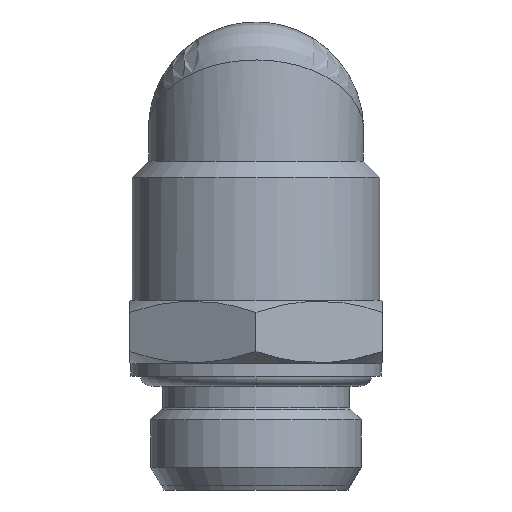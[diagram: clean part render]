
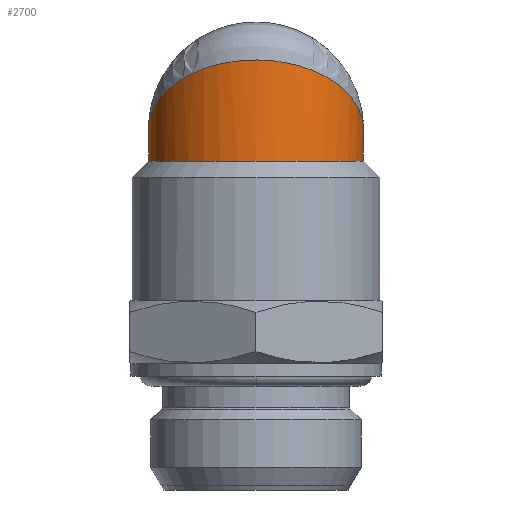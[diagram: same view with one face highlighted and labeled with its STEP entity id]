
A CAD part, left-side view. The second image highlights one B-rep face of the part: STEP entity #2700.
In plain terms, the highlighted cylindrical face has radius 8.5 mm (diameter 17 mm), a partial arc.
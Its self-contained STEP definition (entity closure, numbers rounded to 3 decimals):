
#2700=ADVANCED_FACE('', (#2710), #2720, .T.);
#8260=AXIS2_PLACEMENT_3D('Ax2Pl3d', #8270, #8280, #8290);
#8300=AXIS2_PLACEMENT_3D('Ax2Pl3d', #8310, #8320, #8330);
#8420=AXIS2_PLACEMENT_3D('Ax2Pl3d', #8430, #8440, #8450);
#8460=AXIS2_PLACEMENT_3D('Ax2Pl3d', #8470, #8480, #8490);
#16680=B_SPLINE_CURVE_WITH_KNOTS('Bspl', 3, (#16690,#16700,#16710,
#16720,#16730,#16740,#16750,#16760,#16770,#16780,#16790,#16800,#16810,
#16820,#16830,#16840,#16850,#16860,#16870,#16880,#16890,#16900,#16910,
#16920,#16930,#16940,#16950), .UNSPECIFIED., .F., .F., (4,1,1,1,1,1,1,1,
1,1,1,1,1,1,1,1,1,1,1,1,1,1,1,1,4), (0.,0.038,
0.092,0.145,0.198,0.249,
0.299,0.348,0.396,0.42,
0.445,0.469,0.507,0.531,
0.555,0.58,0.604,0.652,
0.701,0.751,0.802,0.855,
0.908,0.962,1.), .UNSPECIFIED.);
#19290=CARTESIAN_POINT('', (101.608,8.124,132.378));
#8270=CARTESIAN_POINT('HicPkt', (99.108,0.,134.878));
#19300=CARTESIAN_POINT('', (99.108,8.5,134.878));
#19310=CARTESIAN_POINT('', (99.108,-8.5,134.878));
#8310=CARTESIAN_POINT('HicPkt', (99.108,0.,134.878));
#19320=CARTESIAN_POINT('', (101.608,-8.124,132.378));
#8430=CARTESIAN_POINT('HicPkt', (99.108,0.,132.378));
#8470=CARTESIAN_POINT('HicPkt', (99.108,0.,132.378));
#16690=CARTESIAN_POINT('', (99.108,-8.5,134.878));
#16700=CARTESIAN_POINT('', (98.795,-8.5,135.08))
;
#16710=CARTESIAN_POINT('', (98.039,-8.458,135.569))
;
#16720=CARTESIAN_POINT('', (96.859,-8.233,136.333));
#16730=CARTESIAN_POINT('', (95.604,-7.783,137.145));
#16740=CARTESIAN_POINT('', (94.435,-7.142,137.901))
;
#16750=CARTESIAN_POINT('', (93.377,-6.325,138.586))
;
#16760=CARTESIAN_POINT('', (92.454,-5.346,139.183))
;
#16770=CARTESIAN_POINT('', (91.69,-4.225,139.677))
;
#16780=CARTESIAN_POINT('', (91.202,-3.182,139.993));
#16790=CARTESIAN_POINT('', (90.915,-2.3,140.179))
;
#16800=CARTESIAN_POINT('', (90.752,-1.614,140.284));
#16810=CARTESIAN_POINT('', (90.627,-0.782,140.365))
;
#16820=CARTESIAN_POINT('', (90.591,0.067,140.388)
);
#16830=CARTESIAN_POINT('', (90.647,0.912,140.352))
;
#16840=CARTESIAN_POINT('', (90.752,1.614,140.284));
#16850=CARTESIAN_POINT('', (90.915,2.3,140.179))
;
#16860=CARTESIAN_POINT('', (91.202,3.182,139.993));
#16870=CARTESIAN_POINT('', (91.69,4.225,139.677));
#16880=CARTESIAN_POINT('', (92.454,5.346,139.183));
#16890=CARTESIAN_POINT('', (93.377,6.325,138.586))
;
#16900=CARTESIAN_POINT('', (94.435,7.142,137.901));
#16910=CARTESIAN_POINT('', (95.604,7.783,137.145));
#16920=CARTESIAN_POINT('', (96.859,8.233,136.333));
#16930=CARTESIAN_POINT('', (98.039,8.458,135.569))
;
#16940=CARTESIAN_POINT('', (98.795,8.5,135.08));
#16950=CARTESIAN_POINT('', (99.108,8.5,134.878));
#19940=CIRCLE('Circle', #8420, 8.5);
#2720=CYLINDRICAL_SURFACE('Zyl', #8460, 8.5);
#8280=DIRECTION('Axis', (-0.707,-0.,-0.707));
#8290=DIRECTION('RefDirection', (0.707,0.,-0.707));
#8320=DIRECTION('Axis', (-0.707,-0.,-0.707));
#8330=DIRECTION('RefDirection', (0.707,0.,
-0.707));
#8440=DIRECTION('Axis', (0.,0.,-1.)
);
#8450=DIRECTION('RefDirection', (1.,0.,
0.));
#8480=DIRECTION('Axis', (0.,0.,1.));
#8490=DIRECTION('RefDirection', (1.,0.,-0.));
#24150=EDGE_CURVE('', #24160, #24130, #24170, .T.);
#24210=EDGE_CURVE('', #24220, #24190, #24230, .T.);
#24270=EDGE_CURVE('', #24220, #24130, #19940, .T.);
#24280=EDGE_CURVE('', #24190, #24160, #24290, .T.);
#27170=EDGE_LOOP('Edge_loop', (#27180,#27190,#27200,#27210));
#24170=ELLIPSE('Ellipse', #8260, 12.021, 8.5);
#24230=ELLIPSE('Ellipse', #8300, 12.021, 8.5);
#2710=FACE_OUTER_BOUND('Face_outer_bound', #27170, .T.);
#27180=ORIENTED_EDGE('', *, *, #24210, .T.);
#27190=ORIENTED_EDGE('', *, *, #24280, .T.);
#27200=ORIENTED_EDGE('', *, *, #24150, .T.);
#27210=ORIENTED_EDGE('', *, *, #24270, .F.);
#24290=SURFACE_CURVE('', #16680, (#2720), .CURVE_3D.);
#24130=VERTEX_POINT('', #19290);
#24160=VERTEX_POINT('', #19300);
#24190=VERTEX_POINT('', #19310);
#24220=VERTEX_POINT('', #19320);
